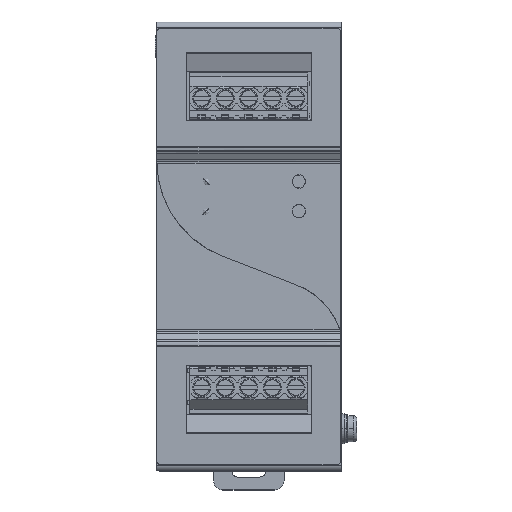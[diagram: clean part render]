
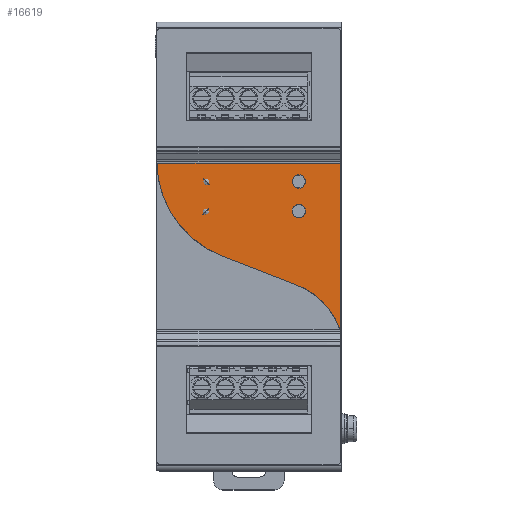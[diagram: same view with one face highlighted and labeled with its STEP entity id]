
A CAD part, top view. The second image highlights one B-rep face of the part: STEP entity #16619.
In plain terms, the highlighted planar face has unit normal (0, 0, 1).
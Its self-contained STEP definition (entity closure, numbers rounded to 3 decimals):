
#13 = EDGE_CURVE ( 'NONE', #89939, #21842, #94639, .T. ) ;
#70 = ORIENTED_EDGE ( 'NONE', *, *, #18364, .F. ) ;
#3063 = EDGE_CURVE ( 'NONE', #38822, #65717, #21145, .T. ) ;
#3153 = CARTESIAN_POINT ( 'NONE',  ( 24.8, -23.022, -1.6 ) ) ;
#3663 = FACE_OUTER_BOUND ( 'NONE', #82029, .T. ) ;
#6035 = VERTEX_POINT ( 'NONE', #72264 ) ;
#6091 = CARTESIAN_POINT ( 'NONE',  ( 13.5, 9.5, -1.6 ) ) ;
#7019 = DIRECTION ( 'NONE',  ( -0.932, 0.363, 0. ) ) ;
#7915 = PLANE ( 'NONE',  #96303 ) ;
#8536 = DIRECTION ( 'NONE',  ( 1., 0., 0. ) ) ;
#8775 = VECTOR ( 'NONE', #90934, 1000. ) ;
#8828 = EDGE_CURVE ( 'NONE', #68509, #38822, #31486, .T. ) ;
#9738 = EDGE_LOOP ( 'NONE', ( #99432, #68162 ) ) ;
#9756 = AXIS2_PLACEMENT_3D ( 'NONE', #91859, #32588, #23501 ) ;
#11697 = AXIS2_PLACEMENT_3D ( 'NONE', #35773, #80533, #41333 ) ;
#12645 = DIRECTION ( 'NONE',  ( 1., 0., 0. ) ) ;
#13173 = ORIENTED_EDGE ( 'NONE', *, *, #67348, .T. ) ;
#16619 = ADVANCED_FACE ( 'NONE', ( #71585, #79673, #3663 ), #7915, .F. ) ;
#18364 = EDGE_CURVE ( 'NONE', #32566, #68509, #90311, .T. ) ;
#18466 = VECTOR ( 'NONE', #35044, 1000. ) ;
#21145 = LINE ( 'NONE', #51797, #59052 ) ;
#21842 = VERTEX_POINT ( 'NONE', #90154 ) ;
#23501 = DIRECTION ( 'NONE',  ( 1., 0., 0. ) ) ;
#25901 = DIRECTION ( 'NONE',  ( 0., 0., -1. ) ) ;
#26996 = CARTESIAN_POINT ( 'NONE',  ( 13.5, 17.5, -1.6 ) ) ;
#31486 = CIRCLE ( 'NONE', #82782, 20.127 ) ;
#31961 = CARTESIAN_POINT ( 'NONE',  ( 5.62, -29.151, -1.6 ) ) ;
#32566 = VERTEX_POINT ( 'NONE', #92850 ) ;
#32588 = DIRECTION ( 'NONE',  ( 0., 0., -1. ) ) ;
#32621 = CARTESIAN_POINT ( 'NONE',  ( -24.795, 22.474, -1.6 ) ) ;
#34554 = DIRECTION ( 'NONE',  ( 1., 0., 0. ) ) ;
#35044 = DIRECTION ( 'NONE',  ( 0., -1., 0. ) ) ;
#35773 = CARTESIAN_POINT ( 'NONE',  ( 2.605, 23.022, -1.6 ) ) ;
#36801 = DIRECTION ( 'NONE',  ( 0., 0., -1. ) ) ;
#38822 = VERTEX_POINT ( 'NONE', #38854 ) ;
#38854 = CARTESIAN_POINT ( 'NONE',  ( 12.088, -10.092, -1.6 ) ) ;
#41333 = DIRECTION ( 'NONE',  ( 1., 0., 0. ) ) ;
#43236 = VERTEX_POINT ( 'NONE', #73871 ) ;
#44055 = CARTESIAN_POINT ( 'NONE',  ( 24.8, -57.82, -1.6 ) ) ;
#46476 = AXIS2_PLACEMENT_3D ( 'NONE', #61320, #77389, #8536 ) ;
#49797 = CIRCLE ( 'NONE', #73843, 1.8 ) ;
#50106 = DIRECTION ( 'NONE',  ( 0., 0., -1. ) ) ;
#51797 = CARTESIAN_POINT ( 'NONE',  ( 12.088, -10.092, -1.6 ) ) ;
#54262 = AXIS2_PLACEMENT_3D ( 'NONE', #6091, #36801, #66465 ) ;
#56859 = CARTESIAN_POINT ( 'NONE',  ( 24.797, -23.036, -1.6 ) ) ;
#57116 = EDGE_CURVE ( 'NONE', #76367, #32566, #98481, .T. ) ;
#57449 = CARTESIAN_POINT ( 'NONE',  ( 15.3, 9.5, -1.6 ) ) ;
#59052 = VECTOR ( 'NONE', #7019, 1000. ) ;
#60176 = ORIENTED_EDGE ( 'NONE', *, *, #8828, .F. ) ;
#61320 = CARTESIAN_POINT ( 'NONE',  ( 13.5, 9.5, -1.6 ) ) ;
#63886 = CIRCLE ( 'NONE', #54262, 1.8 ) ;
#65717 = VERTEX_POINT ( 'NONE', #94035 ) ;
#66465 = DIRECTION ( 'NONE',  ( 1., 0., 0. ) ) ;
#67348 = EDGE_CURVE ( 'NONE', #21842, #89939, #63886, .T. ) ;
#68162 = ORIENTED_EDGE ( 'NONE', *, *, #70030, .T. ) ;
#68509 = VERTEX_POINT ( 'NONE', #56859 ) ;
#70030 = EDGE_CURVE ( 'NONE', #6035, #43236, #94820, .T. ) ;
#71585 = FACE_BOUND ( 'NONE', #9738, .T. ) ;
#72264 = CARTESIAN_POINT ( 'NONE',  ( 11.7, 17.5, -1.6 ) ) ;
#73843 = AXIS2_PLACEMENT_3D ( 'NONE', #26996, #50106, #34554 ) ;
#73871 = CARTESIAN_POINT ( 'NONE',  ( 15.3, 17.5, -1.6 ) ) ;
#75423 = DIRECTION ( 'NONE',  ( 0., 0., 1. ) ) ;
#76322 = CARTESIAN_POINT ( 'NONE',  ( 25., 22.474, -1.6 ) ) ;
#76367 = VERTEX_POINT ( 'NONE', #32621 ) ;
#76812 = EDGE_CURVE ( 'NONE', #65717, #76367, #91910, .T. ) ;
#77291 = DIRECTION ( 'NONE',  ( -1., 0., 0. ) ) ;
#77389 = DIRECTION ( 'NONE',  ( 0., 0., -1. ) ) ;
#78981 = EDGE_LOOP ( 'NONE', ( #96201, #13173 ) ) ;
#79673 = FACE_BOUND ( 'NONE', #78981, .T. ) ;
#79855 = ORIENTED_EDGE ( 'NONE', *, *, #76812, .F. ) ;
#80533 = DIRECTION ( 'NONE',  ( 0., 0., -1. ) ) ;
#82029 = EDGE_LOOP ( 'NONE', ( #92235, #60176, #70, #83381, #79855 ) ) ;
#82782 = AXIS2_PLACEMENT_3D ( 'NONE', #31961, #75423, #12645 ) ;
#83381 = ORIENTED_EDGE ( 'NONE', *, *, #57116, .F. ) ;
#89939 = VERTEX_POINT ( 'NONE', #57449 ) ;
#90154 = CARTESIAN_POINT ( 'NONE',  ( 11.7, 9.5, -1.6 ) ) ;
#90311 = LINE ( 'NONE', #44055, #18466 ) ;
#90934 = DIRECTION ( 'NONE',  ( 1., 0., 0. ) ) ;
#91503 = EDGE_CURVE ( 'NONE', #43236, #6035, #49797, .T. ) ;
#91859 = CARTESIAN_POINT ( 'NONE',  ( 13.5, 17.5, -1.6 ) ) ;
#91910 = CIRCLE ( 'NONE', #11697, 27.405 ) ;
#92235 = ORIENTED_EDGE ( 'NONE', *, *, #3063, .F. ) ;
#92850 = CARTESIAN_POINT ( 'NONE',  ( 24.8, 22.474, -1.6 ) ) ;
#94035 = CARTESIAN_POINT ( 'NONE',  ( -7.082, -2.614, -1.6 ) ) ;
#94639 = CIRCLE ( 'NONE', #46476, 1.8 ) ;
#94820 = CIRCLE ( 'NONE', #9756, 1.8 ) ;
#96201 = ORIENTED_EDGE ( 'NONE', *, *, #13, .T. ) ;
#96303 = AXIS2_PLACEMENT_3D ( 'NONE', #3153, #25901, #77291 ) ;
#98481 = LINE ( 'NONE', #76322, #8775 ) ;
#99432 = ORIENTED_EDGE ( 'NONE', *, *, #91503, .T. ) ;
